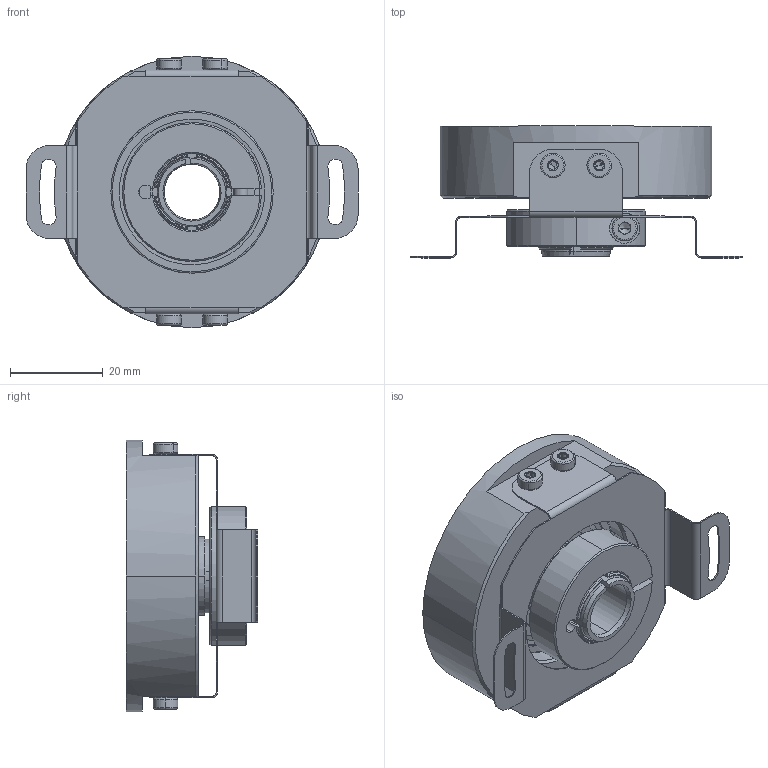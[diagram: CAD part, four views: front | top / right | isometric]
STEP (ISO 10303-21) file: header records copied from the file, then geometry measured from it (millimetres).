
FILE_DESCRIPTION (( 'STEP AP214' ), '1' );
FILE_NAME ('drawing-ucd-hcp0-q5b-n.STEP', '2017-05-15T09:45:02', ( '' ), ( '' ), 'SwSTEP 2.0', 'SolidWorks 2017', '' );
FILE_SCHEMA (( 'AUTOMOTIVE_DESIGN' ));
Length unit declared in the file: millimetre
Products named in the file (1): drawing-ucd-hcp0-q5b-n
Bounding box: 71.57 x 28.4 x 58.5 mm (x, y, z)
Volume: 38555.6 mm3; surface area: 27429.4 mm2
Topology: 22 solids, 22 shells, 837 faces, 1948 edges, 1125 vertices
Faces by surface type: cone 339, cylinder 257, plane 147, bspline 50, torus 44
Entity records: 34861 total; most frequent: CARTESIAN_POINT 6450, DIRECTION 4286, ORIENTED_EDGE 3796, EDGE_CURVE 1898, AXIS2_PLACEMENT_3D 1780, VERTEX_POINT 1125, CIRCLE 992, EDGE_LOOP 893
